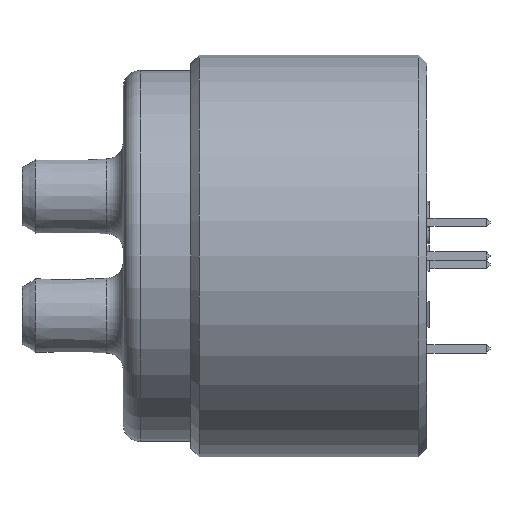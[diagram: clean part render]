
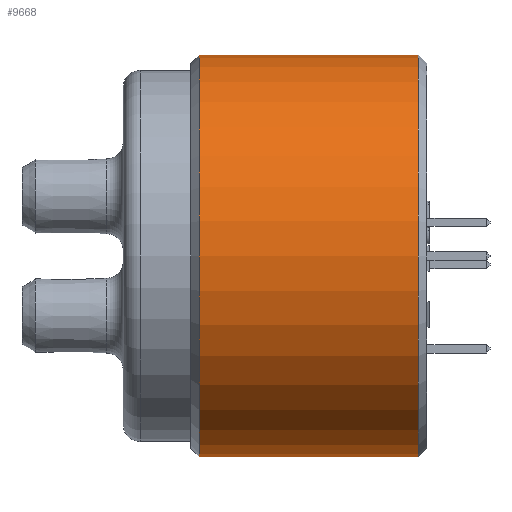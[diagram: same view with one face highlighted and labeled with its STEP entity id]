
A CAD part, left-side view. The second image highlights one B-rep face of the part: STEP entity #9668.
In plain terms, the highlighted cylindrical face has radius 11.9 mm (diameter 23.8 mm), a full revolution.
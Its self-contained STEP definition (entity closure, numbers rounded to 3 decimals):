
#331 = AXIS2_PLACEMENT_3D ( 'NONE', #3175, #2376, #590 ) ;
#590 = DIRECTION ( 'NONE',  ( -1., 0., 0. ) ) ;
#887 = CARTESIAN_POINT ( 'NONE',  ( 11.9, -1.02, 0. ) ) ;
#896 = AXIS2_PLACEMENT_3D ( 'NONE', #2581, #7564, #2474 ) ;
#984 = CIRCLE ( 'NONE', #8022, 11.9 ) ;
#1630 = CIRCLE ( 'NONE', #331, 11.9 ) ;
#2376 = DIRECTION ( 'NONE',  ( 0., 1., 0. ) ) ;
#2474 = DIRECTION ( 'NONE',  ( -1., 0., 0. ) ) ;
#2581 = CARTESIAN_POINT ( 'NONE',  ( 0., -15.52, 0. ) ) ;
#2602 = DIRECTION ( 'NONE',  ( 1., 0., 0. ) ) ;
#2652 = EDGE_CURVE ( 'NONE', #4235, #4235, #1630, .T. ) ;
#3093 = FACE_OUTER_BOUND ( 'NONE', #10373, .T. ) ;
#3175 = CARTESIAN_POINT ( 'NONE',  ( 0., -14.02, 0. ) ) ;
#3461 = EDGE_CURVE ( 'NONE', #4468, #4468, #984, .T. ) ;
#3598 = CYLINDRICAL_SURFACE ( 'NONE', #896, 11.9 ) ;
#4235 = VERTEX_POINT ( 'NONE', #6593 ) ;
#4468 = VERTEX_POINT ( 'NONE', #887 ) ;
#5291 = FACE_OUTER_BOUND ( 'NONE', #7627, .T. ) ;
#6593 = CARTESIAN_POINT ( 'NONE',  ( -11.9, -14.02, 0. ) ) ;
#7444 = CARTESIAN_POINT ( 'NONE',  ( 0., -1.02, 0. ) ) ;
#7481 = ORIENTED_EDGE ( 'NONE', *, *, #3461, .T. ) ;
#7564 = DIRECTION ( 'NONE',  ( 0., -1., 0. ) ) ;
#7580 = DIRECTION ( 'NONE',  ( 0., -1., 0. ) ) ;
#7627 = EDGE_LOOP ( 'NONE', ( #7481 ) ) ;
#7859 = ORIENTED_EDGE ( 'NONE', *, *, #2652, .T. ) ;
#8022 = AXIS2_PLACEMENT_3D ( 'NONE', #7444, #7580, #2602 ) ;
#9668 = ADVANCED_FACE ( 'NONE', ( #5291, #3093 ), #3598, .T. ) ;
#10373 = EDGE_LOOP ( 'NONE', ( #7859 ) ) ;
